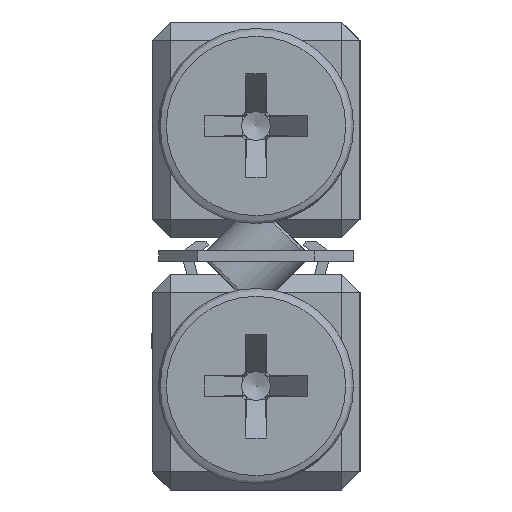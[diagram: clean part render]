
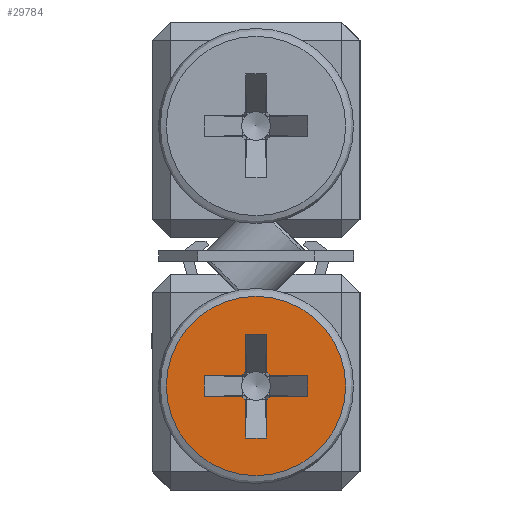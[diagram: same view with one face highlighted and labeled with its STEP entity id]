
A CAD part, left-side view. The second image highlights one B-rep face of the part: STEP entity #29784.
In plain terms, the highlighted planar face has unit normal (-1, 0, 0).
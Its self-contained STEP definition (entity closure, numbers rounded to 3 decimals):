
#236 = DIRECTION ( 'NONE',  ( 0., 0., 1. ) ) ;
#555 = DIRECTION ( 'NONE',  ( 0., 0., -1. ) ) ;
#696 = DIRECTION ( 'NONE',  ( 0., 0., -1. ) ) ;
#899 = CARTESIAN_POINT ( 'NONE',  ( -152., 0.4, 2. ) ) ;
#993 = CARTESIAN_POINT ( 'NONE',  ( -152., 0.4, 3.452 ) ) ;
#1211 = CARTESIAN_POINT ( 'NONE',  ( -152., 0., 0.55 ) ) ;
#1266 = DIRECTION ( 'NONE',  ( 0., 0., 1. ) ) ;
#1290 = LINE ( 'NONE', #30937, #15530 ) ;
#1327 = LINE ( 'NONE', #33928, #31737 ) ;
#1410 = CARTESIAN_POINT ( 'NONE',  ( -152., -0.548, 3.6 ) ) ;
#1653 = DIRECTION ( 'NONE',  ( 0., 0., -1. ) ) ;
#1736 = CARTESIAN_POINT ( 'NONE',  ( -152., 0.4, 6. ) ) ;
#1827 = CARTESIAN_POINT ( 'NONE',  ( -152., -2., 3.6 ) ) ;
#2300 = EDGE_CURVE ( 'NONE', #34635, #10366, #33908, .T. ) ;
#2349 = DIRECTION ( 'NONE',  ( -1., 0., 0. ) ) ;
#2376 = DIRECTION ( 'NONE',  ( 0., -1., 0. ) ) ;
#2758 = CIRCLE ( 'NONE', #30788, 3.45 ) ;
#2925 = CARTESIAN_POINT ( 'NONE',  ( -152., 0.4, 2. ) ) ;
#3092 = DIRECTION ( 'NONE',  ( 0., 1., 0. ) ) ;
#3384 = ORIENTED_EDGE ( 'NONE', *, *, #20379, .F. ) ;
#3431 = CARTESIAN_POINT ( 'NONE',  ( -152., 0.548, 3.6 ) ) ;
#4062 = CARTESIAN_POINT ( 'NONE',  ( -152., 0., 4. ) ) ;
#4450 = FACE_BOUND ( 'NONE', #34089, .T. ) ;
#4599 = ORIENTED_EDGE ( 'NONE', *, *, #8393, .T. ) ;
#4793 = CARTESIAN_POINT ( 'NONE',  ( -152., 0., 4. ) ) ;
#5056 = CARTESIAN_POINT ( 'NONE',  ( -152., -0.4, 6. ) ) ;
#5166 = EDGE_CURVE ( 'NONE', #11292, #11941, #27276, .T. ) ;
#5281 = ORIENTED_EDGE ( 'NONE', *, *, #30626, .T. ) ;
#6018 = ORIENTED_EDGE ( 'NONE', *, *, #7330, .T. ) ;
#6755 = ORIENTED_EDGE ( 'NONE', *, *, #25414, .T. ) ;
#7055 = EDGE_CURVE ( 'NONE', #8967, #32977, #11038, .T. ) ;
#7108 = VERTEX_POINT ( 'NONE', #22771 ) ;
#7330 = EDGE_CURVE ( 'NONE', #18677, #21322, #8903, .T. ) ;
#7508 = VECTOR ( 'NONE', #25882, 1000. ) ;
#7849 = LINE ( 'NONE', #5056, #28242 ) ;
#8298 = CARTESIAN_POINT ( 'NONE',  ( -152., -0.4, 6. ) ) ;
#8393 = EDGE_CURVE ( 'NONE', #11292, #26339, #23779, .T. ) ;
#8507 = ORIENTED_EDGE ( 'NONE', *, *, #20054, .T. ) ;
#8545 = EDGE_CURVE ( 'NONE', #18677, #8550, #12217, .T. ) ;
#8550 = VERTEX_POINT ( 'NONE', #23085 ) ;
#8634 = VERTEX_POINT ( 'NONE', #3431 ) ;
#8903 = LINE ( 'NONE', #26953, #8912 ) ;
#8912 = VECTOR ( 'NONE', #21704, 1000. ) ;
#8967 = VERTEX_POINT ( 'NONE', #26876 ) ;
#9039 = CARTESIAN_POINT ( 'NONE',  ( -152., -2., 3.6 ) ) ;
#9350 = DIRECTION ( 'NONE',  ( 0., 1., 0. ) ) ;
#9352 = CARTESIAN_POINT ( 'NONE',  ( -152., 3.75, 4. ) ) ;
#9427 = VECTOR ( 'NONE', #555, 1000. ) ;
#9770 = DIRECTION ( 'NONE',  ( 0., 0., 1. ) ) ;
#9839 = CIRCLE ( 'NONE', #11519, 0.678 ) ;
#9869 = EDGE_CURVE ( 'NONE', #25757, #10366, #9839, .T. ) ;
#10258 = LINE ( 'NONE', #26381, #11081 ) ;
#10366 = VERTEX_POINT ( 'NONE', #1410 ) ;
#11038 = LINE ( 'NONE', #27523, #9427 ) ;
#11081 = VECTOR ( 'NONE', #2376, 1000. ) ;
#11239 = CARTESIAN_POINT ( 'NONE',  ( -152., 0.4, 4.548 ) ) ;
#11292 = VERTEX_POINT ( 'NONE', #899 ) ;
#11519 = AXIS2_PLACEMENT_3D ( 'NONE', #4793, #23881, #31823 ) ;
#11849 = LINE ( 'NONE', #9039, #17823 ) ;
#11941 = VERTEX_POINT ( 'NONE', #29446 ) ;
#11985 = PLANE ( 'NONE',  #27303 ) ;
#12217 = CIRCLE ( 'NONE', #31822, 0.678 ) ;
#12405 = DIRECTION ( 'NONE',  ( -1., 0., 0. ) ) ;
#12958 = DIRECTION ( 'NONE',  ( 0., 0., 1. ) ) ;
#13565 = CARTESIAN_POINT ( 'NONE',  ( -152., 0., 4. ) ) ;
#14184 = ORIENTED_EDGE ( 'NONE', *, *, #5166, .F. ) ;
#14583 = LINE ( 'NONE', #25260, #16065 ) ;
#14857 = DIRECTION ( 'NONE',  ( -1., 0., 0. ) ) ;
#14871 = VERTEX_POINT ( 'NONE', #23712 ) ;
#15100 = ORIENTED_EDGE ( 'NONE', *, *, #26398, .T. ) ;
#15530 = VECTOR ( 'NONE', #1653, 1000. ) ;
#16065 = VECTOR ( 'NONE', #1266, 1000. ) ;
#16345 = LINE ( 'NONE', #8298, #7508 ) ;
#16797 = VERTEX_POINT ( 'NONE', #1211 ) ;
#17207 = CIRCLE ( 'NONE', #18317, 0.678 ) ;
#17306 = DIRECTION ( 'NONE',  ( 0., 0., 1. ) ) ;
#17823 = VECTOR ( 'NONE', #3092, 1000. ) ;
#18021 = DIRECTION ( 'NONE',  ( 0., 0., -1. ) ) ;
#18317 = AXIS2_PLACEMENT_3D ( 'NONE', #22589, #14857, #9770 ) ;
#18677 = VERTEX_POINT ( 'NONE', #11239 ) ;
#18997 = AXIS2_PLACEMENT_3D ( 'NONE', #13565, #2349, #236 ) ;
#19281 = EDGE_CURVE ( 'NONE', #7108, #21682, #34148, .T. ) ;
#19864 = DIRECTION ( 'NONE',  ( 0., 0., -1. ) ) ;
#20054 = EDGE_CURVE ( 'NONE', #14871, #21682, #7849, .T. ) ;
#20344 = CARTESIAN_POINT ( 'NONE',  ( -152., -0.4, 4.548 ) ) ;
#20379 = EDGE_CURVE ( 'NONE', #14871, #21322, #16345, .T. ) ;
#21181 = CARTESIAN_POINT ( 'NONE',  ( -152., 0.4, 2. ) ) ;
#21322 = VERTEX_POINT ( 'NONE', #1736 ) ;
#21395 = EDGE_CURVE ( 'NONE', #8634, #26339, #17207, .T. ) ;
#21682 = VERTEX_POINT ( 'NONE', #20344 ) ;
#21704 = DIRECTION ( 'NONE',  ( 0., 0., 1. ) ) ;
#22589 = CARTESIAN_POINT ( 'NONE',  ( -152., 0., 4. ) ) ;
#22623 = ORIENTED_EDGE ( 'NONE', *, *, #34666, .T. ) ;
#22650 = CARTESIAN_POINT ( 'NONE',  ( -152., -2., 3.6 ) ) ;
#22674 = FACE_OUTER_BOUND ( 'NONE', #29476, .T. ) ;
#22771 = CARTESIAN_POINT ( 'NONE',  ( -152., -0.548, 4.4 ) ) ;
#22870 = ORIENTED_EDGE ( 'NONE', *, *, #19281, .F. ) ;
#23085 = CARTESIAN_POINT ( 'NONE',  ( -152., 0.548, 4.4 ) ) ;
#23198 = DIRECTION ( 'NONE',  ( 1., 0., 0. ) ) ;
#23712 = CARTESIAN_POINT ( 'NONE',  ( -152., -0.4, 6. ) ) ;
#23779 = LINE ( 'NONE', #21181, #33507 ) ;
#23881 = DIRECTION ( 'NONE',  ( -1., 0., 0. ) ) ;
#24052 = ORIENTED_EDGE ( 'NONE', *, *, #8545, .F. ) ;
#25260 = CARTESIAN_POINT ( 'NONE',  ( -152., -2., 3.6 ) ) ;
#25414 = EDGE_CURVE ( 'NONE', #8967, #8550, #1327, .T. ) ;
#25757 = VERTEX_POINT ( 'NONE', #29862 ) ;
#25882 = DIRECTION ( 'NONE',  ( 0., 1., 0. ) ) ;
#26134 = DIRECTION ( 'NONE',  ( -1., 0., 0. ) ) ;
#26339 = VERTEX_POINT ( 'NONE', #993 ) ;
#26381 = CARTESIAN_POINT ( 'NONE',  ( -152., 2., 4.4 ) ) ;
#26398 = EDGE_CURVE ( 'NONE', #8634, #32977, #11849, .T. ) ;
#26876 = CARTESIAN_POINT ( 'NONE',  ( -152., 2., 4.4 ) ) ;
#26948 = EDGE_CURVE ( 'NONE', #25757, #11941, #1290, .T. ) ;
#26953 = CARTESIAN_POINT ( 'NONE',  ( -152., 0.4, 2. ) ) ;
#27098 = DIRECTION ( 'NONE',  ( 0., -1., 0. ) ) ;
#27276 = LINE ( 'NONE', #2925, #32443 ) ;
#27303 = AXIS2_PLACEMENT_3D ( 'NONE', #9352, #23198, #19864 ) ;
#27523 = CARTESIAN_POINT ( 'NONE',  ( -152., 2., 4.4 ) ) ;
#27783 = DIRECTION ( 'NONE',  ( 0., -1., 0. ) ) ;
#28242 = VECTOR ( 'NONE', #18021, 1000. ) ;
#28266 = ORIENTED_EDGE ( 'NONE', *, *, #26948, .T. ) ;
#28357 = VECTOR ( 'NONE', #9350, 1000. ) ;
#28511 = ORIENTED_EDGE ( 'NONE', *, *, #32196, .F. ) ;
#29446 = CARTESIAN_POINT ( 'NONE',  ( -152., -0.4, 2. ) ) ;
#29476 = EDGE_LOOP ( 'NONE', ( #22623 ) ) ;
#29784 = ADVANCED_FACE ( 'NONE', ( #22674, #4450 ), #11985, .F. ) ;
#29862 = CARTESIAN_POINT ( 'NONE',  ( -152., -0.4, 3.452 ) ) ;
#30013 = CARTESIAN_POINT ( 'NONE',  ( -152., -2., 4.4 ) ) ;
#30151 = VERTEX_POINT ( 'NONE', #30013 ) ;
#30524 = ORIENTED_EDGE ( 'NONE', *, *, #7055, .F. ) ;
#30626 = EDGE_CURVE ( 'NONE', #7108, #30151, #10258, .T. ) ;
#30647 = CARTESIAN_POINT ( 'NONE',  ( -152., 0., 4. ) ) ;
#30788 = AXIS2_PLACEMENT_3D ( 'NONE', #4062, #26134, #696 ) ;
#30937 = CARTESIAN_POINT ( 'NONE',  ( -152., -0.4, 6. ) ) ;
#31737 = VECTOR ( 'NONE', #27783, 1000. ) ;
#31822 = AXIS2_PLACEMENT_3D ( 'NONE', #30647, #12405, #17306 ) ;
#31823 = DIRECTION ( 'NONE',  ( 0., 0., 1. ) ) ;
#32121 = ORIENTED_EDGE ( 'NONE', *, *, #21395, .F. ) ;
#32196 = EDGE_CURVE ( 'NONE', #34635, #30151, #14583, .T. ) ;
#32443 = VECTOR ( 'NONE', #27098, 1000. ) ;
#32764 = CARTESIAN_POINT ( 'NONE',  ( -152., 2., 3.6 ) ) ;
#32826 = ORIENTED_EDGE ( 'NONE', *, *, #9869, .F. ) ;
#32977 = VERTEX_POINT ( 'NONE', #32764 ) ;
#33507 = VECTOR ( 'NONE', #12958, 1000. ) ;
#33908 = LINE ( 'NONE', #1827, #28357 ) ;
#33928 = CARTESIAN_POINT ( 'NONE',  ( -152., 2., 4.4 ) ) ;
#34089 = EDGE_LOOP ( 'NONE', ( #32826, #28266, #14184, #4599, #32121, #15100, #30524, #6755, #24052, #6018, #3384, #8507, #22870, #5281, #28511, #34683 ) ) ;
#34148 = CIRCLE ( 'NONE', #18997, 0.678 ) ;
#34635 = VERTEX_POINT ( 'NONE', #22650 ) ;
#34666 = EDGE_CURVE ( 'NONE', #16797, #16797, #2758, .T. ) ;
#34683 = ORIENTED_EDGE ( 'NONE', *, *, #2300, .T. ) ;
